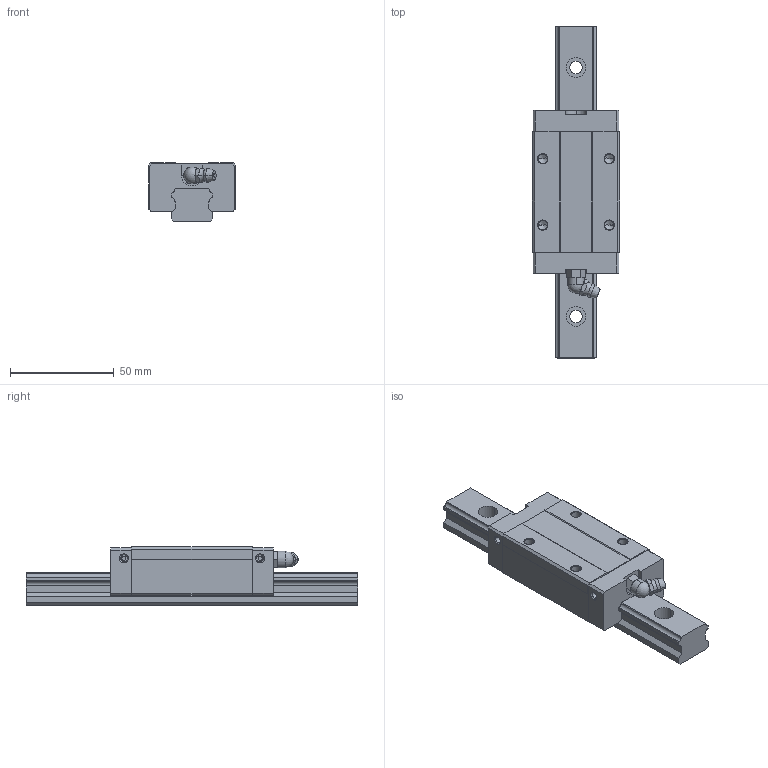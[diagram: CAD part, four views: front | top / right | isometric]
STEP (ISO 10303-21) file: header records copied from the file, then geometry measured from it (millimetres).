
FILE_DESCRIPTION((''),'1');
FILE_NAME(' ',' ',(''),(''),'ACIS Interop R16','Kubotek KeyCreator V6.5.2 (0407)',' ');
FILE_SCHEMA(('CONFIG_CONTROL_DESIGN'));
Length unit declared in the file: millimetre
Products named in the file (3): 1; 2; 3
Bounding box: 42 x 160 x 28 mm (x, y, z)
Volume: 102985.7 mm3; surface area: 27629.6 mm2
Topology: 3 solids, 3 shells, 205 faces, 531 edges, 341 vertices
Faces by surface type: plane 98, cylinder 66, cone 26, torus 10, sphere 3, bspline 2
Entity records: 6508 total; most frequent: CARTESIAN_POINT 1268, DIRECTION 1106, ORIENTED_EDGE 1042, EDGE_CURVE 521, AXIS2_PLACEMENT_3D 399, VERTEX_POINT 341, LINE 308, VECTOR 308
